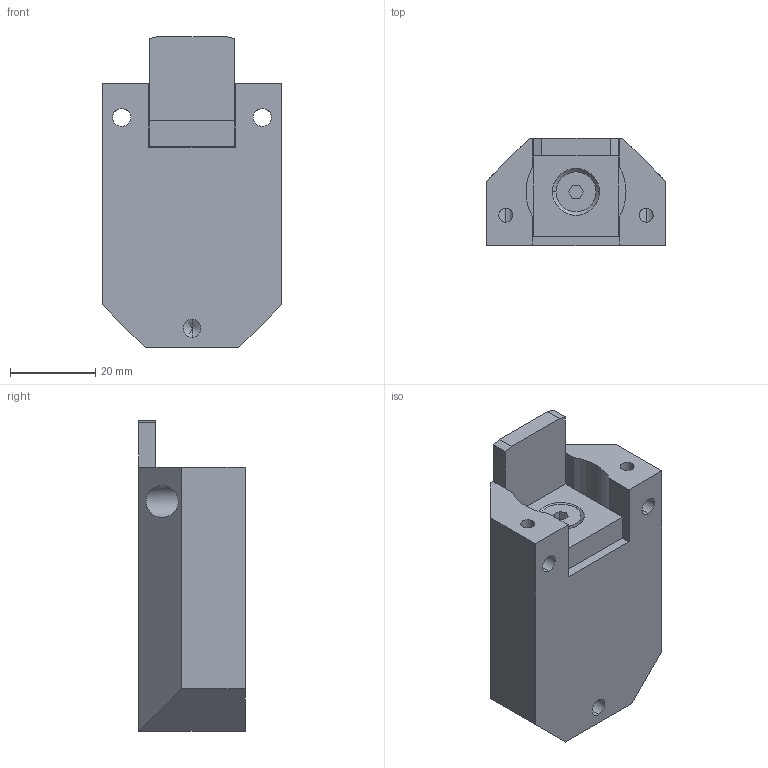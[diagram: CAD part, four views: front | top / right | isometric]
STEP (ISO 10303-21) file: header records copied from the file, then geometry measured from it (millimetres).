
FILE_DESCRIPTION (( 'STEP AP214' ), '1' );
FILE_NAME ('ASME-15-W.STEP', '2018-05-16T11:45:39', ( '' ), ( '' ), 'SwSTEP 2.0', 'SolidWorks 2015', '' );
FILE_SCHEMA (( 'AUTOMOTIVE_DESIGN' ));
Length unit declared in the file: millimetre
Products named in the file (1): ASME-15-W
Bounding box: 42 x 25 x 73 mm (x, y, z)
Volume: 50166 mm3; surface area: 16426.9 mm2
Topology: 2 solids, 3 shells, 300 faces, 794 edges, 525 vertices
Faces by surface type: plane 197, cylinder 74, bspline 23, cone 6
Entity records: 12548 total; most frequent: CARTESIAN_POINT 3005, ORIENTED_EDGE 1584, DIRECTION 1436, EDGE_CURVE 792, LINE 588, VECTOR 588, VERTEX_POINT 525, AXIS2_PLACEMENT_3D 424
